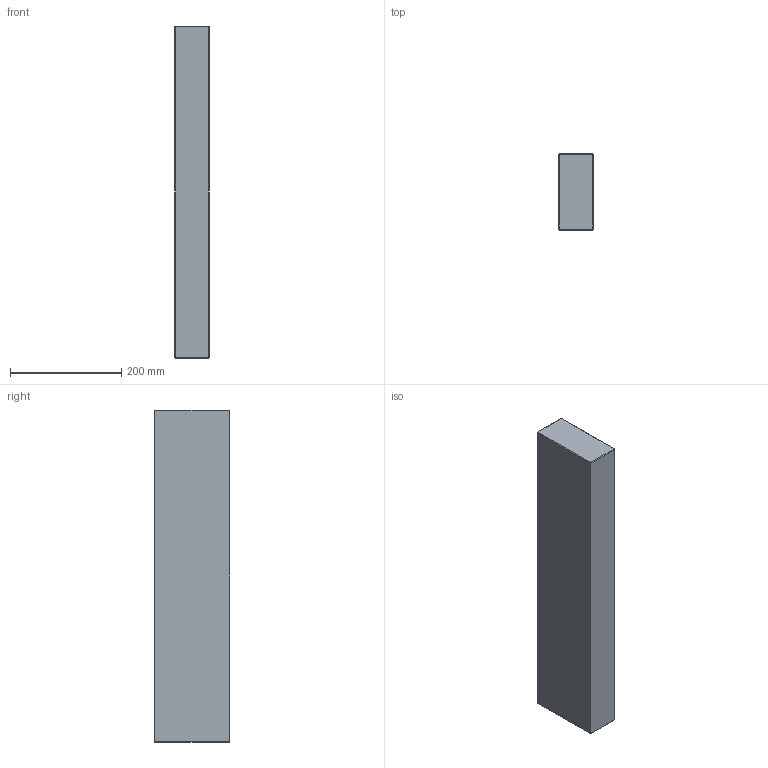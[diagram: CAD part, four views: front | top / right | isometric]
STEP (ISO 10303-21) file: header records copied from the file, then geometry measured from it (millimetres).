
FILE_DESCRIPTION (( 'STEP AP214' ), '1' );
FILE_NAME ('ESP-P-346X596x136.STEP', '2020-04-08T11:11:44', ( 'August' ), ( '' ), 'SwSTEP 2.0', 'SolidWorks 2018', '' );
FILE_SCHEMA (( 'AUTOMOTIVE_DESIGN' ));
Length unit declared in the file: millimetre
Products named in the file (1): ESP-P-346X596x136
Bounding box: 62 x 136 x 596 mm (x, y, z)
Volume: 5023889.3 mm3; surface area: 251016.5 mm2
Topology: 1 solids, 1 shells, 26 faces, 48 edges, 24 vertices
Faces by surface type: plane 26
Entity records: 634 total; most frequent: DIRECTION 102, CARTESIAN_POINT 99, ORIENTED_EDGE 96, EDGE_CURVE 48, LINE 48, VECTOR 48, AXIS2_PLACEMENT_3D 27, PLANE 26
